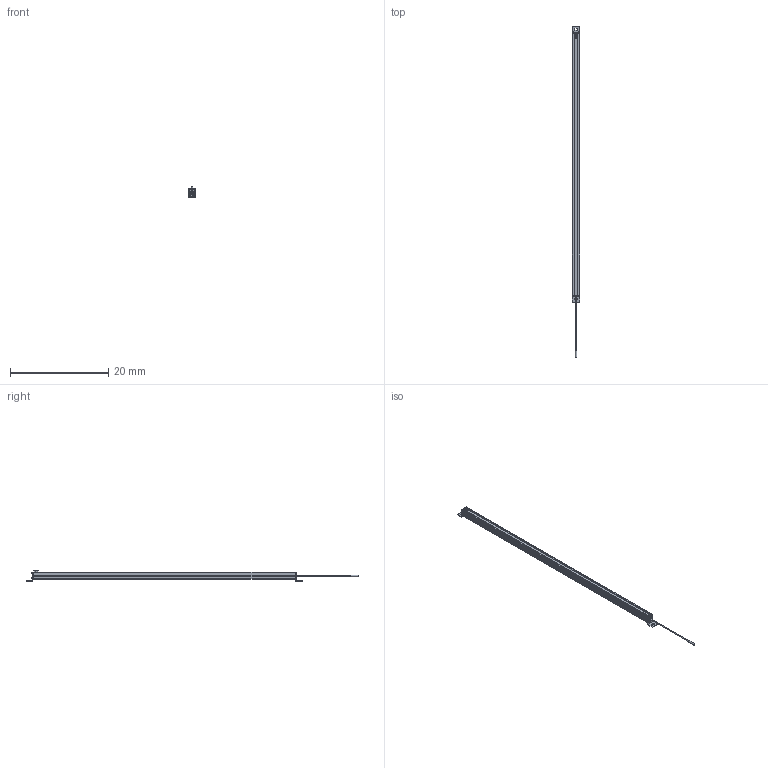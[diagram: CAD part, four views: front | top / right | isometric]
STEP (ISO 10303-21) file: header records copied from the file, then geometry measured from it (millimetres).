
FILE_DESCRIPTION((' '),'2;1');
FILE_NAME('C:\ACADFILES\SS_PYLONS\CUSTOMER_FILES\SS-52-PYLON-3D-L.stp','2015-08-10T12:26:27',(' '),(' '),' ','ACIS',' ');
FILE_SCHEMA(('CONFIG_CONTROL_DESIGN'));
Length unit declared in the file: millimetre
Products named in the file (1): C:\ACADFILES\SS_PYLONS\CUSTOMER_FILES\SS-52-PYLON-3D-L.stp
Bounding box: 1.46 x 67.52 x 2.11 mm (x, y, z)
Surface area: 796.7 mm2 (no closed solid volume)
Topology: 0 solids, 475 shells, 475 faces, 2101 edges, 2036 vertices
Faces by surface type: plane 364, cylinder 55, cone 40, bspline 8, torus 8
Full cylindrical faces by diameter (mm): 0.112 x8, 0.114 x4, 0.12 x12, 0.128 x2, 0.219 x8, 0.293 x3, 0.348 x1, 0.497 x1, 1.1 x2
Entity records: 28194 total; most frequent: CARTESIAN_POINT 5466, DIRECTION 3134, VERTEX_POINT 2007, EDGE_CURVE 2007, ORIENTED_EDGE 2007, VECTOR 1308, LINE 1308, AXIS2_PLACEMENT_3D 913
